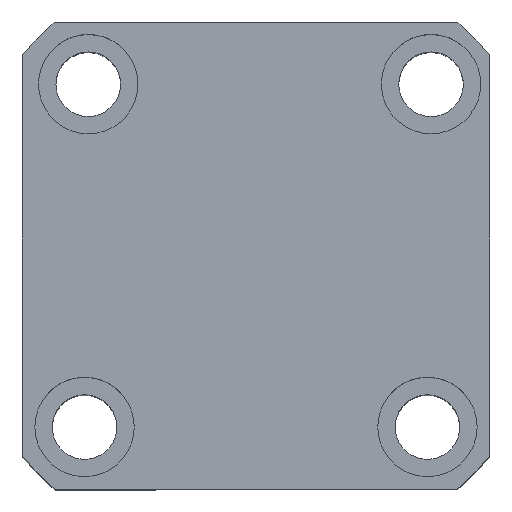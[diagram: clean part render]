
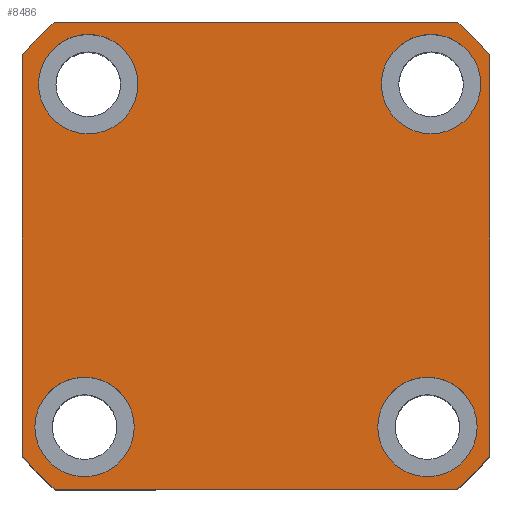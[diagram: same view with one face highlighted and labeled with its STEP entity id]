
A CAD part, top view. The second image highlights one B-rep face of the part: STEP entity #8486.
In plain terms, the highlighted planar face has unit normal (0, 0, 1) as drawn and (0, 0, -1) by its records, which use the part's own axes.
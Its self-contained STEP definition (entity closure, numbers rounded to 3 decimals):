
#115 = CARTESIAN_POINT ( 'NONE',  ( 34.5, 34.5, 0. ) ) ;
#125 = FACE_OUTER_BOUND ( 'NONE', #17845, .T. ) ;
#155 = DIRECTION ( 'NONE',  ( 0., 0., -1. ) ) ;
#233 = AXIS2_PLACEMENT_3D ( 'NONE', #17406, #9391, #967 ) ;
#421 = DIRECTION ( 'NONE',  ( 0., 0., 1. ) ) ;
#616 = CARTESIAN_POINT ( 'NONE',  ( -47., 47., 0. ) ) ;
#854 = DIRECTION ( 'NONE',  ( 0., 1., 0. ) ) ;
#891 = VERTEX_POINT ( 'NONE', #2496 ) ;
#967 = DIRECTION ( 'NONE',  ( -1., 0., 0. ) ) ;
#1093 = AXIS2_PLACEMENT_3D ( 'NONE', #7254, #16665, #8644 ) ;
#1113 = ORIENTED_EDGE ( 'NONE', *, *, #11204, .F. ) ;
#1170 = AXIS2_PLACEMENT_3D ( 'NONE', #10111, #14062, #11444 ) ;
#1198 = VERTEX_POINT ( 'NONE', #7686 ) ;
#1444 = ORIENTED_EDGE ( 'NONE', *, *, #1741, .F. ) ;
#1571 = DIRECTION ( 'NONE',  ( -1., 0., 0. ) ) ;
#1593 = CARTESIAN_POINT ( 'NONE',  ( -23.77, -34.5, 0. ) ) ;
#1646 = LINE ( 'NONE', #616, #2563 ) ;
#1705 = VERTEX_POINT ( 'NONE', #4880 ) ;
#1741 = EDGE_CURVE ( 'NONE', #1198, #12084, #7885, .T. ) ;
#1870 = ORIENTED_EDGE ( 'NONE', *, *, #14292, .F. ) ;
#1921 = CARTESIAN_POINT ( 'NONE',  ( 47., 47., 0. ) ) ;
#2097 = EDGE_CURVE ( 'NONE', #8177, #891, #4553, .T. ) ;
#2319 = AXIS2_PLACEMENT_3D ( 'NONE', #12560, #4327, #13890 ) ;
#2496 = CARTESIAN_POINT ( 'NONE',  ( 40.435, -47., 0. ) ) ;
#2563 = VECTOR ( 'NONE', #11762, 1000. ) ;
#2584 = EDGE_CURVE ( 'NONE', #6772, #8347, #14810, .T. ) ;
#2620 = EDGE_CURVE ( 'NONE', #12084, #10406, #3907, .T. ) ;
#2628 = DIRECTION ( 'NONE',  ( 1., 0., 0. ) ) ;
#2685 = DIRECTION ( 'NONE',  ( 0., 0., 1. ) ) ;
#2802 = VECTOR ( 'NONE', #6929, 1000. ) ;
#3092 = DIRECTION ( 'NONE',  ( 0., 0., -1. ) ) ;
#3098 = CIRCLE ( 'NONE', #5015, 10. ) ;
#3117 = AXIS2_PLACEMENT_3D ( 'NONE', #14988, #6912, #16330 ) ;
#3297 = CARTESIAN_POINT ( 'NONE',  ( -44.5, 34.5, 0. ) ) ;
#3370 = EDGE_LOOP ( 'NONE', ( #9551, #17506 ) ) ;
#3863 = VERTEX_POINT ( 'NONE', #12299 ) ;
#3907 = CIRCLE ( 'NONE', #8067, 62. ) ;
#3926 = CARTESIAN_POINT ( 'NONE',  ( 0., 0., 0. ) ) ;
#4002 = CIRCLE ( 'NONE', #3117, 10. ) ;
#4327 = DIRECTION ( 'NONE',  ( 0., 0., 1. ) ) ;
#4353 = DIRECTION ( 'NONE',  ( 0., 0., -1. ) ) ;
#4512 = VERTEX_POINT ( 'NONE', #11170 ) ;
#4553 = LINE ( 'NONE', #5503, #2802 ) ;
#4652 = CIRCLE ( 'NONE', #10929, 10. ) ;
#4660 = ORIENTED_EDGE ( 'NONE', *, *, #5044, .F. ) ;
#4846 = DIRECTION ( 'NONE',  ( 0., 0., -1. ) ) ;
#4880 = CARTESIAN_POINT ( 'NONE',  ( -24.5, 34.5, 0. ) ) ;
#5015 = AXIS2_PLACEMENT_3D ( 'NONE', #12584, #4353, #13916 ) ;
#5044 = EDGE_CURVE ( 'NONE', #10406, #3863, #1646, .T. ) ;
#5503 = CARTESIAN_POINT ( 'NONE',  ( -47., -47., 0. ) ) ;
#5766 = EDGE_CURVE ( 'NONE', #1705, #13147, #10066, .T. ) ;
#5953 = AXIS2_PLACEMENT_3D ( 'NONE', #115, #9953, #1571 ) ;
#6354 = CIRCLE ( 'NONE', #8308, 62. ) ;
#6772 = VERTEX_POINT ( 'NONE', #16847 ) ;
#6867 = CIRCLE ( 'NONE', #5953, 10. ) ;
#6912 = DIRECTION ( 'NONE',  ( 0., 0., -1. ) ) ;
#6929 = DIRECTION ( 'NONE',  ( 1., 0., 0. ) ) ;
#7121 = AXIS2_PLACEMENT_3D ( 'NONE', #11841, #11785, #11720 ) ;
#7187 = CARTESIAN_POINT ( 'NONE',  ( 24.5, 34.5, 0. ) ) ;
#7254 = CARTESIAN_POINT ( 'NONE',  ( 0., 0., 0. ) ) ;
#7683 = FACE_BOUND ( 'NONE', #3370, .T. ) ;
#7686 = CARTESIAN_POINT ( 'NONE',  ( 47., -40.435, 0. ) ) ;
#7885 = LINE ( 'NONE', #1921, #11907 ) ;
#8067 = AXIS2_PLACEMENT_3D ( 'NONE', #3926, #2685, #2628 ) ;
#8082 = CARTESIAN_POINT ( 'NONE',  ( 47., 40.435, 0. ) ) ;
#8177 = VERTEX_POINT ( 'NONE', #16777 ) ;
#8308 = AXIS2_PLACEMENT_3D ( 'NONE', #8874, #421, #10246 ) ;
#8347 = VERTEX_POINT ( 'NONE', #1593 ) ;
#8486 = ADVANCED_FACE ( 'NONE', ( #14845, #7683, #11275, #11712, #125 ), #16756, .F. ) ;
#8621 = CARTESIAN_POINT ( 'NONE',  ( -34.5, 34.5, 0. ) ) ;
#8644 = DIRECTION ( 'NONE',  ( 1., 0., 0. ) ) ;
#8874 = CARTESIAN_POINT ( 'NONE',  ( 0., 0., 0. ) ) ;
#8976 = CIRCLE ( 'NONE', #11128, 10. ) ;
#9147 = ORIENTED_EDGE ( 'NONE', *, *, #14329, .F. ) ;
#9358 = ORIENTED_EDGE ( 'NONE', *, *, #12879, .F. ) ;
#9391 = DIRECTION ( 'NONE',  ( 0., 0., -1. ) ) ;
#9551 = ORIENTED_EDGE ( 'NONE', *, *, #2584, .F. ) ;
#9708 = VERTEX_POINT ( 'NONE', #7187 ) ;
#9758 = EDGE_CURVE ( 'NONE', #891, #1198, #17759, .T. ) ;
#9769 = ORIENTED_EDGE ( 'NONE', *, *, #5766, .F. ) ;
#9953 = DIRECTION ( 'NONE',  ( 0., 0., -1. ) ) ;
#9990 = DIRECTION ( 'NONE',  ( -1., 0., 0. ) ) ;
#10066 = CIRCLE ( 'NONE', #16660, 10. ) ;
#10111 = CARTESIAN_POINT ( 'NONE',  ( 0., 0., 0. ) ) ;
#10246 = DIRECTION ( 'NONE',  ( 1., 0., 0. ) ) ;
#10406 = VERTEX_POINT ( 'NONE', #13414 ) ;
#10896 = EDGE_CURVE ( 'NONE', #3863, #17408, #6354, .T. ) ;
#10929 = AXIS2_PLACEMENT_3D ( 'NONE', #8621, #155, #9990 ) ;
#11128 = AXIS2_PLACEMENT_3D ( 'NONE', #11387, #3092, #12723 ) ;
#11170 = CARTESIAN_POINT ( 'NONE',  ( 44.5, 34.5, 0. ) ) ;
#11204 = EDGE_CURVE ( 'NONE', #11862, #8177, #13262, .T. ) ;
#11268 = VECTOR ( 'NONE', #12909, 1000. ) ;
#11275 = FACE_BOUND ( 'NONE', #13858, .T. ) ;
#11387 = CARTESIAN_POINT ( 'NONE',  ( 35.23, -34.5, 0. ) ) ;
#11444 = DIRECTION ( 'NONE',  ( 1., 0., 0. ) ) ;
#11572 = CARTESIAN_POINT ( 'NONE',  ( -47., 47., 0. ) ) ;
#11588 = EDGE_LOOP ( 'NONE', ( #1870, #16852 ) ) ;
#11712 = FACE_BOUND ( 'NONE', #14286, .T. ) ;
#11720 = DIRECTION ( 'NONE',  ( -1., 0., 0. ) ) ;
#11762 = DIRECTION ( 'NONE',  ( -1., 0., 0. ) ) ;
#11772 = CIRCLE ( 'NONE', #233, 10. ) ;
#11785 = DIRECTION ( 'NONE',  ( 0., 0., -1. ) ) ;
#11841 = CARTESIAN_POINT ( 'NONE',  ( -33.77, -34.5, 0. ) ) ;
#11862 = VERTEX_POINT ( 'NONE', #13153 ) ;
#11897 = ORIENTED_EDGE ( 'NONE', *, *, #2097, .F. ) ;
#11907 = VECTOR ( 'NONE', #854, 1000. ) ;
#12084 = VERTEX_POINT ( 'NONE', #8082 ) ;
#12160 = VERTEX_POINT ( 'NONE', #16117 ) ;
#12299 = CARTESIAN_POINT ( 'NONE',  ( -40.435, 47., 0. ) ) ;
#12560 = CARTESIAN_POINT ( 'NONE',  ( 0., 0., 0. ) ) ;
#12584 = CARTESIAN_POINT ( 'NONE',  ( 35.23, -34.5, 0. ) ) ;
#12723 = DIRECTION ( 'NONE',  ( -1., 0., 0. ) ) ;
#12782 = CARTESIAN_POINT ( 'NONE',  ( 25.23, -34.5, 0. ) ) ;
#12879 = EDGE_CURVE ( 'NONE', #13147, #1705, #4652, .T. ) ;
#12909 = DIRECTION ( 'NONE',  ( 0., -1., 0. ) ) ;
#13031 = ORIENTED_EDGE ( 'NONE', *, *, #17658, .F. ) ;
#13057 = CARTESIAN_POINT ( 'NONE',  ( -34.5, 34.5, 0. ) ) ;
#13131 = ORIENTED_EDGE ( 'NONE', *, *, #14057, .F. ) ;
#13147 = VERTEX_POINT ( 'NONE', #3297 ) ;
#13153 = CARTESIAN_POINT ( 'NONE',  ( -47., -40.435, 0. ) ) ;
#13262 = CIRCLE ( 'NONE', #2319, 62. ) ;
#13414 = CARTESIAN_POINT ( 'NONE',  ( 40.435, 47., 0. ) ) ;
#13618 = VERTEX_POINT ( 'NONE', #12782 ) ;
#13858 = EDGE_LOOP ( 'NONE', ( #9358, #9769 ) ) ;
#13881 = EDGE_CURVE ( 'NONE', #8347, #6772, #11772, .T. ) ;
#13890 = DIRECTION ( 'NONE',  ( 1., 0., 0. ) ) ;
#13916 = DIRECTION ( 'NONE',  ( -1., 0., 0. ) ) ;
#14005 = CARTESIAN_POINT ( 'NONE',  ( -47., 40.435, 0. ) ) ;
#14057 = EDGE_CURVE ( 'NONE', #4512, #9708, #4002, .T. ) ;
#14062 = DIRECTION ( 'NONE',  ( 0., 0., 1. ) ) ;
#14286 = EDGE_LOOP ( 'NONE', ( #9147, #13131 ) ) ;
#14292 = EDGE_CURVE ( 'NONE', #13618, #12160, #3098, .T. ) ;
#14329 = EDGE_CURVE ( 'NONE', #9708, #4512, #6867, .T. ) ;
#14380 = DIRECTION ( 'NONE',  ( -1., 0., 0. ) ) ;
#14800 = ORIENTED_EDGE ( 'NONE', *, *, #2620, .F. ) ;
#14810 = CIRCLE ( 'NONE', #7121, 10. ) ;
#14835 = LINE ( 'NONE', #11572, #11268 ) ;
#14845 = FACE_BOUND ( 'NONE', #11588, .T. ) ;
#14988 = CARTESIAN_POINT ( 'NONE',  ( 34.5, 34.5, 0. ) ) ;
#16117 = CARTESIAN_POINT ( 'NONE',  ( 45.23, -34.5, 0. ) ) ;
#16330 = DIRECTION ( 'NONE',  ( -1., 0., 0. ) ) ;
#16660 = AXIS2_PLACEMENT_3D ( 'NONE', #13057, #4846, #14380 ) ;
#16665 = DIRECTION ( 'NONE',  ( 0., 0., 1. ) ) ;
#16756 = PLANE ( 'NONE',  #1170 ) ;
#16777 = CARTESIAN_POINT ( 'NONE',  ( -40.435, -47., 0. ) ) ;
#16847 = CARTESIAN_POINT ( 'NONE',  ( -43.77, -34.5, 0. ) ) ;
#16852 = ORIENTED_EDGE ( 'NONE', *, *, #17375, .F. ) ;
#16889 = ORIENTED_EDGE ( 'NONE', *, *, #9758, .F. ) ;
#17375 = EDGE_CURVE ( 'NONE', #12160, #13618, #8976, .T. ) ;
#17406 = CARTESIAN_POINT ( 'NONE',  ( -33.77, -34.5, 0. ) ) ;
#17408 = VERTEX_POINT ( 'NONE', #14005 ) ;
#17428 = ORIENTED_EDGE ( 'NONE', *, *, #10896, .F. ) ;
#17506 = ORIENTED_EDGE ( 'NONE', *, *, #13881, .F. ) ;
#17658 = EDGE_CURVE ( 'NONE', #17408, #11862, #14835, .T. ) ;
#17759 = CIRCLE ( 'NONE', #1093, 62. ) ;
#17845 = EDGE_LOOP ( 'NONE', ( #14800, #1444, #16889, #11897, #1113, #13031, #17428, #4660 ) ) ;
